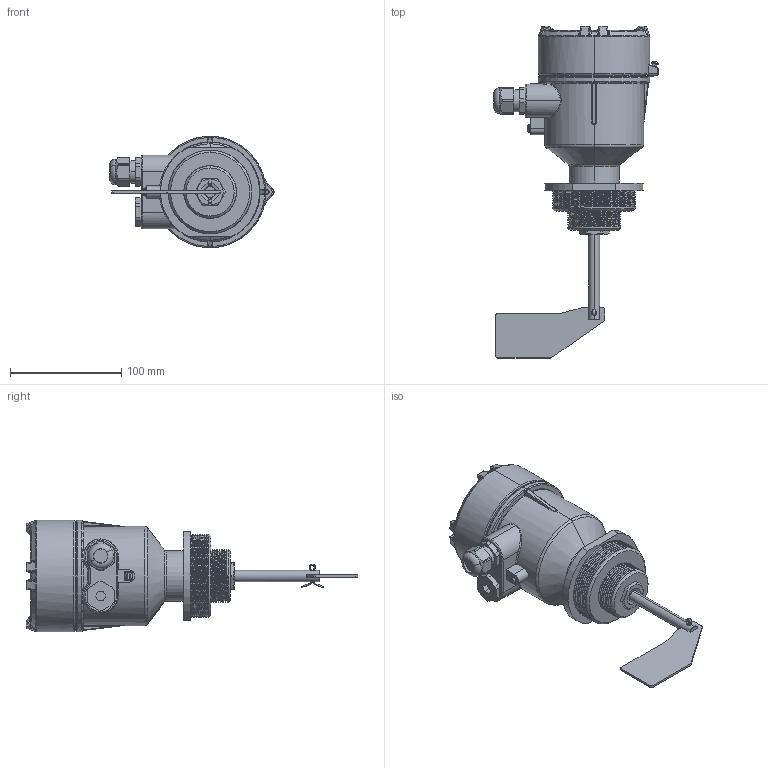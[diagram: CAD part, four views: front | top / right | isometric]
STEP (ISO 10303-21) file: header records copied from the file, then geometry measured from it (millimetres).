
FILE_DESCRIPTION (( 'STEP AP214' ), '1' );
FILE_NAME ('IL-LAA-N-Ex - ð.STEP', '2020-12-23T16:25:38', ( '' ), ( '' ), 'SwSTEP 2.0', 'SolidWorks 2020', '' );
FILE_SCHEMA (( 'AUTOMOTIVE_DESIGN' ));
Length unit declared in the file: millimetre
Products named in the file (9): Âèíò Ì4; Êðûøêà; 幄鼭歑; IL-LAA-N-Ex - ð; Êîðïóñ-ð; Ëîïàñòü; 幄鼭歑 2; 扻錝僝鍧; Øïèëüêà
Assembly tree (8 placements, depth 2):
  IL-LAA-N-Ex - ð
    Êîðïóñ-ð
    扻錝僝鍧
    Êðûøêà
    Ëîïàñòü
    Øïèëüêà
    幄鼭歑
    幄鼭歑 2
    Âèíò Ì4
Bounding box: 147.53 x 298 x 100 mm (x, y, z)
Volume: 1077554.9 mm3; surface area: 110609.3 mm2
Topology: 8 solids, 8 shells, 790 faces, 1908 edges, 1080 vertices
Faces by surface type: bspline 211, cylinder 204, plane 142, torus 125, cone 58, sphere 50
Entity records: 41150 total; most frequent: CARTESIAN_POINT 24190, ORIENTED_EDGE 3710, DIRECTION 3290, EDGE_CURVE 1855, AXIS2_PLACEMENT_3D 1423, VERTEX_POINT 1074, CIRCLE 833, EDGE_LOOP 817
